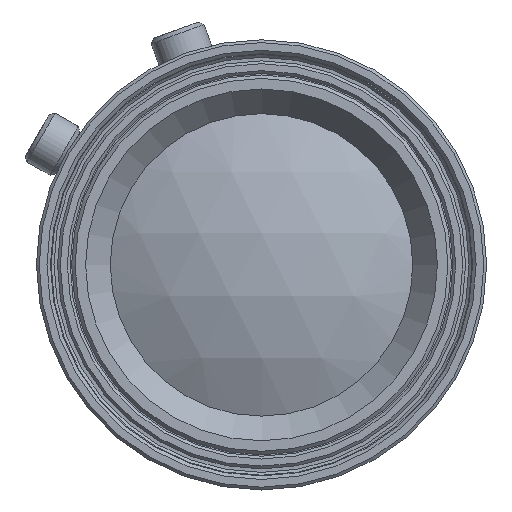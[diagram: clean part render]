
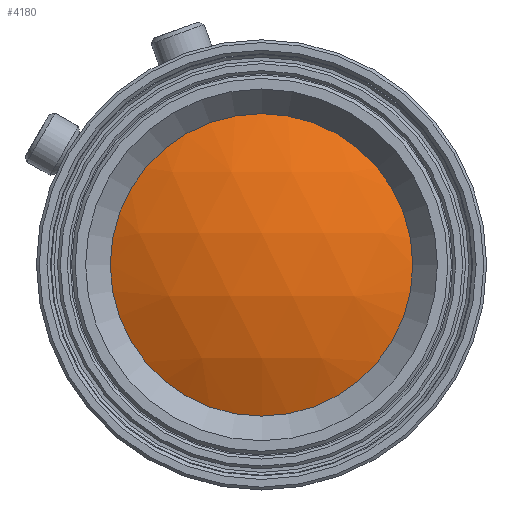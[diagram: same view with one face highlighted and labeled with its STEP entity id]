
A CAD part, left-side view. The second image highlights one B-rep face of the part: STEP entity #4180.
In plain terms, the highlighted spherical face has radius 23.386 mm.
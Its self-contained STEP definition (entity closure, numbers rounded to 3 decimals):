
#47=SPHERICAL_SURFACE('',#4664,23.386);
#320=FACE_OUTER_BOUND('',#589,.T.);
#589=EDGE_LOOP('',(#3273,#3274));
#1373=CIRCLE('',#4665,10.75);
#1374=CIRCLE('',#4666,10.75);
#1812=VERTEX_POINT('',#7513);
#1813=VERTEX_POINT('',#7514);
#2349=EDGE_CURVE('',#1812,#1813,#1373,.T.);
#2350=EDGE_CURVE('',#1813,#1812,#1374,.T.);
#3273=ORIENTED_EDGE('',*,*,#2349,.F.);
#3274=ORIENTED_EDGE('',*,*,#2350,.F.);
#4180=ADVANCED_FACE('',(#320),#47,.T.);
#4664=AXIS2_PLACEMENT_3D('',#7512,#5743,#5744);
#4665=AXIS2_PLACEMENT_3D('',#7515,#5745,#5746);
#4666=AXIS2_PLACEMENT_3D('',#7516,#5747,#5748);
#5743=DIRECTION('center_axis',(0.,0.,1.));
#5744=DIRECTION('ref_axis',(-1.,0.001,0.));
#5745=DIRECTION('center_axis',(1.,0.,0.));
#5746=DIRECTION('ref_axis',(0.,1.,0.));
#5747=DIRECTION('center_axis',(1.,0.,0.));
#5748=DIRECTION('ref_axis',(0.,1.,0.));
#7512=CARTESIAN_POINT('Origin',(26.505,0.,0.));
#7513=CARTESIAN_POINT('',(5.736,9.31,5.375));
#7514=CARTESIAN_POINT('',(5.736,-10.75,0.));
#7515=CARTESIAN_POINT('Origin',(5.736,0.,0.));
#7516=CARTESIAN_POINT('Origin',(5.736,0.,0.));
